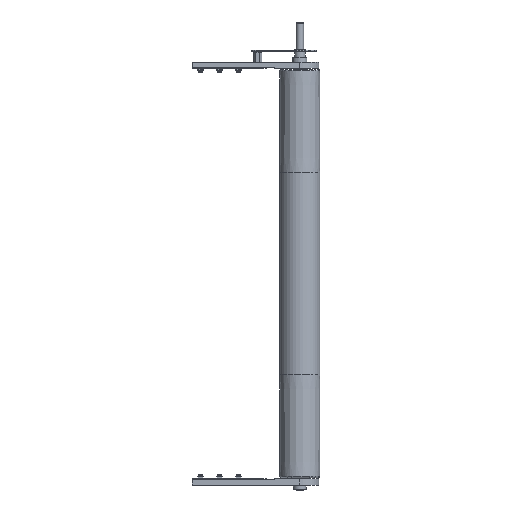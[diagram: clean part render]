
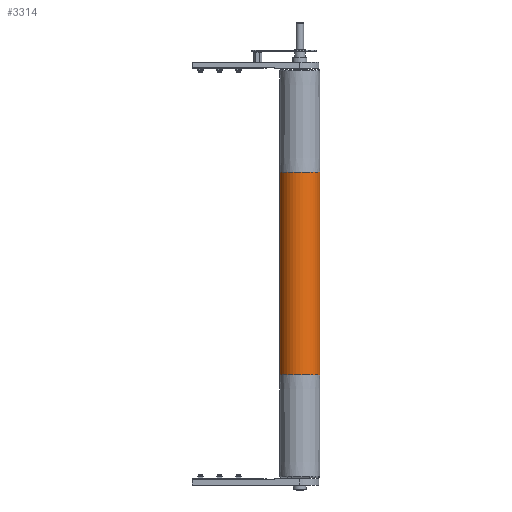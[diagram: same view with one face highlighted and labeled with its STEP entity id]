
A CAD part, front view. The second image highlights one B-rep face of the part: STEP entity #3314.
In plain terms, the highlighted cylindrical face has radius 47.5 mm (diameter 95 mm), a partial arc.
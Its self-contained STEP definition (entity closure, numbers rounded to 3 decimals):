
#76 = VERTEX_POINT ( 'NONE', #15981 ) ;
#657 = VERTEX_POINT ( 'NONE', #15969 ) ;
#2051 = ORIENTED_EDGE ( 'NONE', *, *, #13306, .T. ) ;
#2132 = EDGE_CURVE ( 'NONE', #21735, #11043, #18858, .T. ) ;
#2140 = FACE_OUTER_BOUND ( 'NONE', #4621, .T. ) ;
#2514 = CARTESIAN_POINT ( 'NONE',  ( 480., 0., 0. ) ) ;
#3314 = ADVANCED_FACE ( 'NONE', ( #2140 ), #10669, .T. ) ;
#3351 = DIRECTION ( 'NONE',  ( -1., 0., 0. ) ) ;
#3917 = CARTESIAN_POINT ( 'NONE',  ( -240., 0., -47.5 ) ) ;
#4218 = DIRECTION ( 'NONE',  ( -1., 0., 0. ) ) ;
#4621 = EDGE_LOOP ( 'NONE', ( #19036, #14403, #2051, #5085 ) ) ;
#4980 = DIRECTION ( 'NONE',  ( -1., 0., 0. ) ) ;
#5085 = ORIENTED_EDGE ( 'NONE', *, *, #2132, .T. ) ;
#5839 = EDGE_CURVE ( 'NONE', #657, #11043, #16235, .T. ) ;
#7319 = AXIS2_PLACEMENT_3D ( 'NONE', #2514, #4218, #9376 ) ;
#9376 = DIRECTION ( 'NONE',  ( 0., 0., 1. ) ) ;
#9388 = CIRCLE ( 'NONE', #11679, 47.5 ) ;
#9430 = DIRECTION ( 'NONE',  ( 1., 0., 0. ) ) ;
#9467 = CARTESIAN_POINT ( 'NONE',  ( 240., 0., 0. ) ) ;
#10669 = CYLINDRICAL_SURFACE ( 'NONE', #7319, 47.5 ) ;
#11043 = VERTEX_POINT ( 'NONE', #3917 ) ;
#11162 = DIRECTION ( 'NONE',  ( 0., 0., -1. ) ) ;
#11679 = AXIS2_PLACEMENT_3D ( 'NONE', #9467, #21346, #11162 ) ;
#13306 = EDGE_CURVE ( 'NONE', #76, #21735, #21732, .T. ) ;
#14403 = ORIENTED_EDGE ( 'NONE', *, *, #16406, .F. ) ;
#15297 = CARTESIAN_POINT ( 'NONE',  ( 480., 0., -47.5 ) ) ;
#15708 = VECTOR ( 'NONE', #3351, 1000. ) ;
#15969 = CARTESIAN_POINT ( 'NONE',  ( 240., 0., -47.5 ) ) ;
#15981 = CARTESIAN_POINT ( 'NONE',  ( 240., 0., 47.5 ) ) ;
#16235 = LINE ( 'NONE', #15297, #15708 ) ;
#16406 = EDGE_CURVE ( 'NONE', #76, #657, #9388, .T. ) ;
#16930 = CARTESIAN_POINT ( 'NONE',  ( 480., 0., 47.5 ) ) ;
#18858 = CIRCLE ( 'NONE', #21989, 47.5 ) ;
#19031 = CARTESIAN_POINT ( 'NONE',  ( -240., 0., 47.5 ) ) ;
#19036 = ORIENTED_EDGE ( 'NONE', *, *, #5839, .F. ) ;
#19628 = CARTESIAN_POINT ( 'NONE',  ( -240., 0., 0. ) ) ;
#21199 = VECTOR ( 'NONE', #4980, 1000. ) ;
#21314 = DIRECTION ( 'NONE',  ( 0., 0., -1. ) ) ;
#21346 = DIRECTION ( 'NONE',  ( 1., 0., 0. ) ) ;
#21732 = LINE ( 'NONE', #16930, #21199 ) ;
#21735 = VERTEX_POINT ( 'NONE', #19031 ) ;
#21989 = AXIS2_PLACEMENT_3D ( 'NONE', #19628, #9430, #21314 ) ;
